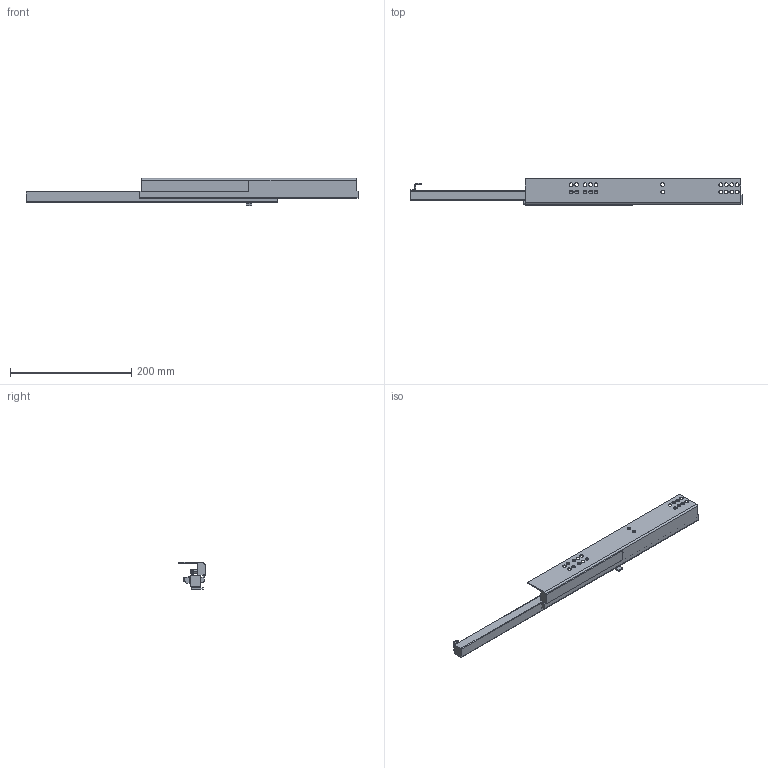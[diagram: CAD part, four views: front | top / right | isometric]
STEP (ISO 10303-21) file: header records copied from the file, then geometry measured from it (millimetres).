
FILE_DESCRIPTION (( 'STEP AP203' ), '1' );
FILE_NAME ('GG10550H-L-DTC3D-close.STEP', '2021-07-02T01:08:10', ( 'df' ), ( 'Microsoft' ), 'SwSTEP 2.0', 'SolidWorks 2018', '' );
FILE_SCHEMA (( 'CONFIG_CONTROL_DESIGN' ));
Length unit declared in the file: millimetre
Products named in the file (1): GG10550H-L-DTC3D-close
Bounding box: 548 x 44.1 x 44.73 mm (x, y, z)
Volume: 223959.7 mm3; surface area: 84073.3 mm2
Topology: 1 solids, 1 shells, 172 faces, 483 edges, 313 vertices
Faces by surface type: cylinder 88, plane 76, bspline 4, sphere 2, cone 2
Entity records: 5778 total; most frequent: CARTESIAN_POINT 1133, ORIENTED_EDGE 962, DIRECTION 955, EDGE_CURVE 481, AXIS2_PLACEMENT_3D 335, VERTEX_POINT 313, VECTOR 285, LINE 285
